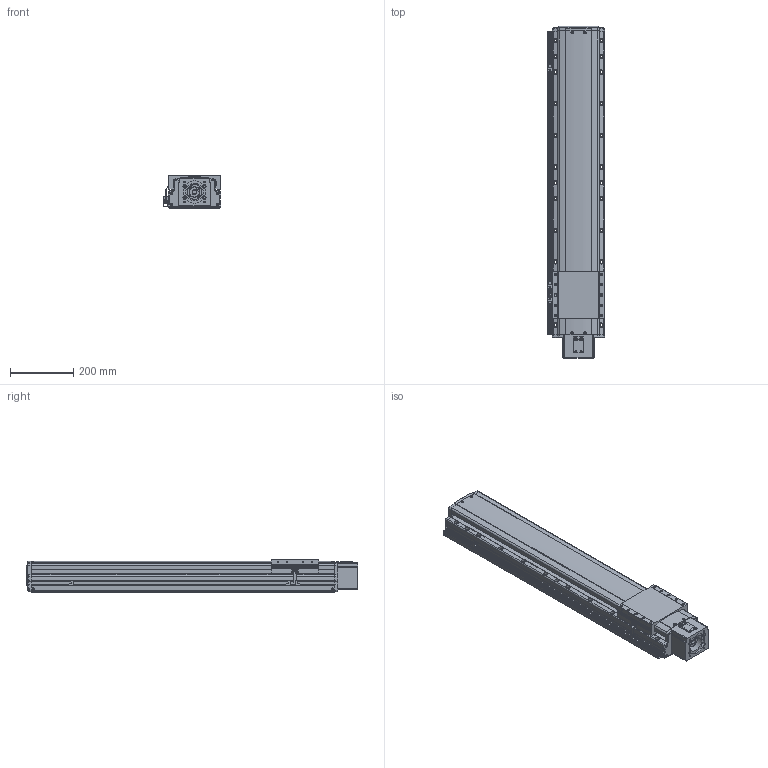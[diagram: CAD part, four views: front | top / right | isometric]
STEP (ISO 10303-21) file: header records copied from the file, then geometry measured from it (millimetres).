
FILE_DESCRIPTION(('STEP AP214'),'1');
FILE_NAME('Z:/Web/3D/PSA165/STP/PSA165-700 (3D)/PSA165ㅁㅁ-700S+3SL.stp','2014-06-23T11:34:07',(' '),(' '),'Spatial InterOp 3D',' ',' ');
FILE_SCHEMA(('automotive_design'));
Length unit declared in the file: millimetre
Products named in the file (85): 스크루 : Round - M4.0 x 12.0; RRCV-PA160; BASE; 스크루 : Round - M4.0 x 10.0; RN15; Screw 20; SLIDE; FRCV; 스크루 : Socket - M6.0 x 25.0; MTHZ-SAN150-80A; SSFX-SAN65; CPLCV-SAN65; 스크루 : Round - M3.0 x 6.0; SDWA47C(2); SDWA47C(3-1); SDWA47C(3); SDWA47C(1); SDWA47C(4); SDWA47C(5); M3.0 x 6.0; SRL-16x17-360L; SGD-SAN150; EE-SX674; SBK-SX674-352; BHCS M4.0 x 10.0
Bounding box: 181 x 1049.8 x 104 mm (x, y, z)
Volume: 14117920.1 mm3; surface area: 1093691.3 mm2
Topology: 85 solids, 85 shells, 3509 faces, 9319 edges, 6017 vertices
Faces by surface type: plane 1747, cylinder 1248, cone 385, sphere 70, bspline 35, torus 24
Entity records: 143305 total; most frequent: CARTESIAN_POINT 24480, DIRECTION 19383, ORIENTED_EDGE 18326, EDGE_CURVE 9163, AXIS2_PLACEMENT_3D 6930, VERTEX_POINT 6017, LINE 5523, VECTOR 5523
